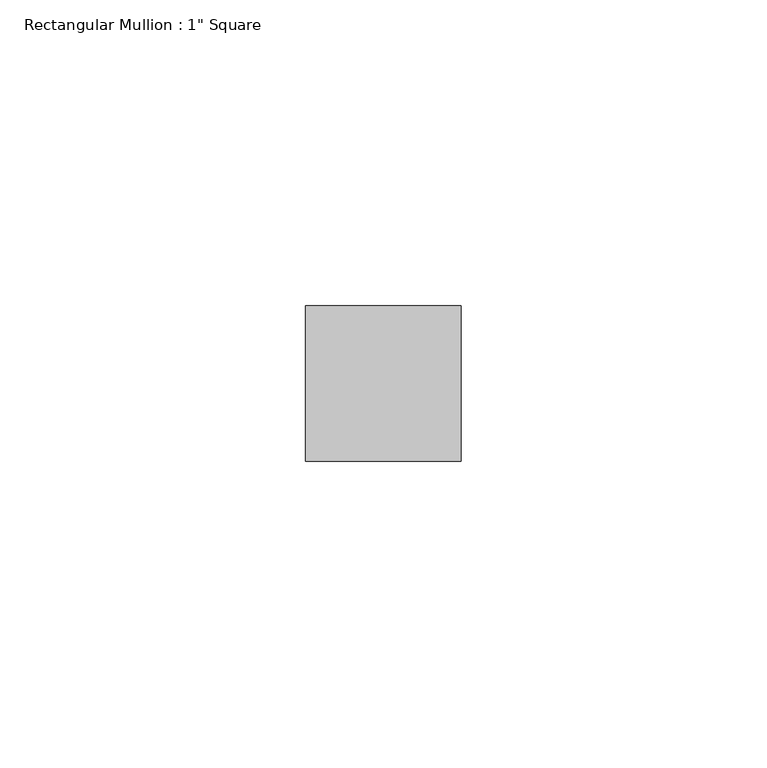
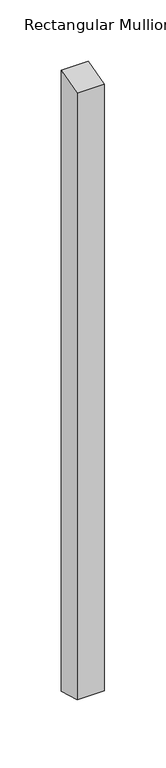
"""IFC4 building model written with IfcOpenShell, lengths in millimetres: member geometry."""

from ifc_helpers import new_model, si_unit, origin, place, context, project, spatial, faceted_brep, source, transform, mapped, element, save


def member_9a79e7da(model_context):
    return source(origin(), model_context, "Body", "Brep", [
        faceted_brep([(-25.4, 12.7, 3.7223285), (0.0, 12.7, 3.7084338), (0.0, 12.7, -612.9412824), (-25.4, 12.7, -612.9538015), (-25.4, -12.7, -3.6945391), (-25.4, -12.7, -606.2712367), (0.0, -12.7, -3.7084338), (0.0, -12.7, -606.2587176)], [[[0, 1, 2, 3]], [[4, 0, 3, 5]], [[6, 4, 5, 7]], [[1, 6, 7, 2]], [[1, 0, 4, 6]], [[2, 7, 5, 3]]]),
    ])


if __name__ == "__main__":
    model = new_model("IFC4")
    model_context = context("Model", 3, world=origin())
    ifc_project = project(units=[si_unit("LENGTHUNIT", "METRE", prefix="MILLI")], contexts=[model_context])
    site = spatial("IfcSite", under=ifc_project)
    building = spatial("IfcBuilding", under=site)
    placement = place(None, origin())
    member_shape = member_9a79e7da(model_context)
    element("IfcMember", 1, ObjectType="Rectangular Mullion : 1\" Square", at=placement, inside=building, context=model_context, shape_type="MappedRepresentation", body=[
        mapped(member_shape, transform((0.0, 0.0, 0.0), x_axis=(1.0, 0.0, 0.0), y_axis=(0.0, 1.0, 0.0), z_axis=(0.0, 0.0, 1.0))),
    ])
    save(model, "model.ifc")
